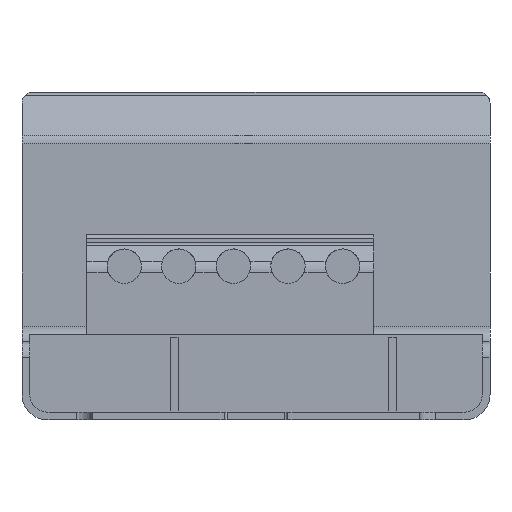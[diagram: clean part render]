
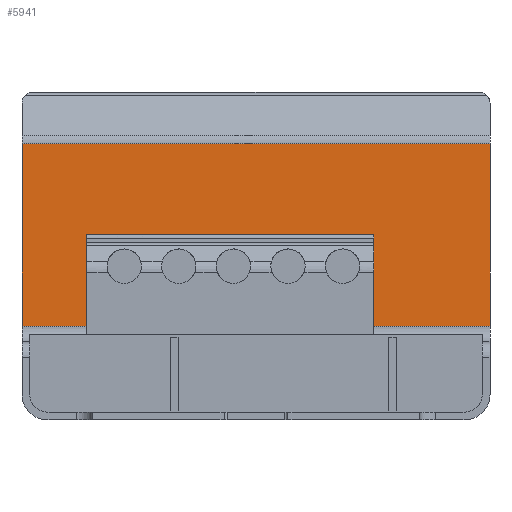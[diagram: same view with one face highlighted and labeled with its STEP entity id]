
A CAD part, front view. The second image highlights one B-rep face of the part: STEP entity #5941.
In plain terms, the highlighted planar face has unit normal (0, -1, 0).
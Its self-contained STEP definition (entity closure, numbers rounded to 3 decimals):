
#2058=DIRECTION('',(1.,0.,0.));
#2059=VECTOR('',#2058,30.);
#2060=CARTESIAN_POINT('',(-15.,-110.7,6.));
#2061=LINE('',#2060,#2059);
#2875=DIRECTION('',(0.,0.,1.));
#2876=VECTOR('',#2875,11.71);
#2877=CARTESIAN_POINT('',(-15.,-110.7,6.));
#2878=LINE('',#2877,#2876);
#2882=DIRECTION('',(1.,0.,0.));
#2883=VECTOR('',#2882,30.);
#2884=CARTESIAN_POINT('',(-15.,-110.7,17.71));
#2885=LINE('',#2884,#2883);
#2889=DIRECTION('',(0.,0.,-1.));
#2890=VECTOR('',#2889,11.71);
#2891=CARTESIAN_POINT('',(15.,-110.7,17.71));
#2892=LINE('',#2891,#2890);
#3881=CARTESIAN_POINT('',(-15.,-110.7,17.71));
#3882=CARTESIAN_POINT('',(15.,-110.7,17.71));
#3883=VERTEX_POINT('',#3881);
#3884=VERTEX_POINT('',#3882);
#3981=CARTESIAN_POINT('',(15.,-110.7,6.));
#3982=VERTEX_POINT('',#3981);
#3983=CARTESIAN_POINT('',(-15.,-110.7,6.));
#3984=VERTEX_POINT('',#3983);
#5929=CARTESIAN_POINT('',(-15.,-110.7,5.45));
#5930=DIRECTION('',(0.,-1.,0.));
#5931=DIRECTION('',(0.,0.,1.));
#5932=AXIS2_PLACEMENT_3D('',#5929,#5930,#5931);
#5933=PLANE('',#5932);
#5934=ORIENTED_EDGE('',*,*,#5363,.F.);
#5935=ORIENTED_EDGE('',*,*,#4018,.T.);
#5937=ORIENTED_EDGE('',*,*,#5936,.T.);
#5938=ORIENTED_EDGE('',*,*,#4198,.T.);
#5939=EDGE_LOOP('',(#5934,#5935,#5937,#5938));
#5940=FACE_OUTER_BOUND('',#5939,.F.);
#4018=EDGE_CURVE('',#3984,#3883,#2878,.T.);
#4198=EDGE_CURVE('',#3884,#3982,#2892,.T.);
#5363=EDGE_CURVE('',#3984,#3982,#2061,.T.);
#5936=EDGE_CURVE('',#3883,#3884,#2885,.T.);
#5941=ADVANCED_FACE('',(#5940),#5933,.T.);
